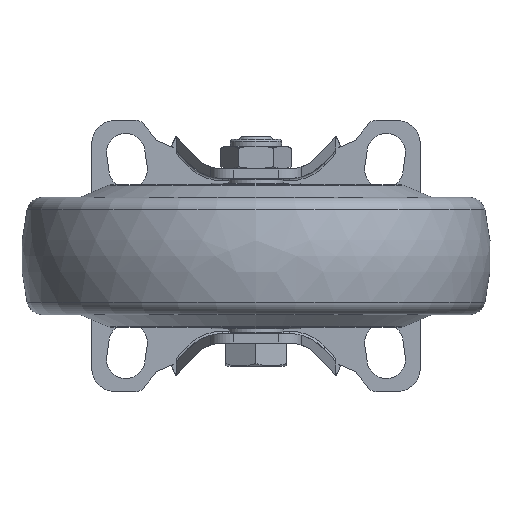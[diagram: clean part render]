
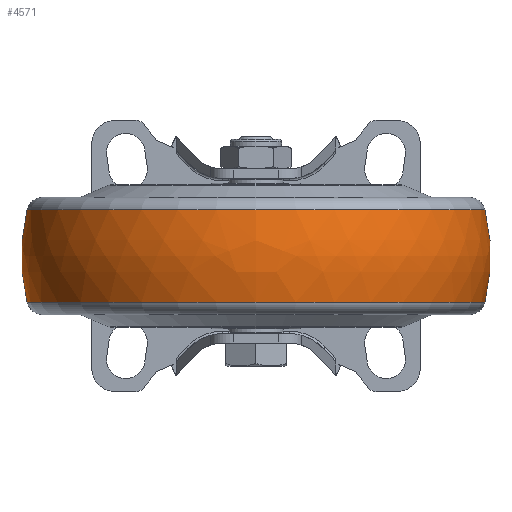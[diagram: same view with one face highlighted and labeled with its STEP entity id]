
A CAD part, front view. The second image highlights one B-rep face of the part: STEP entity #4571.
In plain terms, the highlighted free-form (B-spline) face has degree [3, 3] with [7, 4] control points.
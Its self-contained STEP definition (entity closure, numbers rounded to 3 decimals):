
#4073=CARTESIAN_POINT('',(0.,10.,0.));
#4074=DIRECTION('',(0.,0.,1.));
#4075=DIRECTION('',(0.247,0.969,0.));
#4076=AXIS2_PLACEMENT_3D('',#4073,#4074,#4075);
#4078=CARTESIAN_POINT('',(0.,-10.,0.));
#4079=DIRECTION('',(0.,0.,-1.));
#4080=DIRECTION('',(0.247,-0.969,0.));
#4081=AXIS2_PLACEMENT_3D('',#4078,#4079,#4080);
#4083=CARTESIAN_POINT('',(9.863,0.,0.));
#4084=DIRECTION('',(-1.,0.,0.));
#4085=DIRECTION('',(0.,1.,0.));
#4086=AXIS2_PLACEMENT_3D('',#4083,#4084,#4085);
#4108=CARTESIAN_POINT('',(-9.863,0.,0.));
#4109=DIRECTION('',(-1.,0.,0.));
#4110=DIRECTION('',(0.,1.,0.));
#4111=AXIS2_PLACEMENT_3D('',#4108,#4109,#4110);
#4262=CARTESIAN_POINT('',(9.863,48.765,0.));
#4264=VERTEX_POINT('',#4262);
#4265=CARTESIAN_POINT('',(-9.863,48.765,0.));
#4266=VERTEX_POINT('',#4265);
#4302=CARTESIAN_POINT('',(9.863,-48.765,
0.));
#4304=VERTEX_POINT('',#4302);
#4305=CARTESIAN_POINT('',(-9.863,-48.765,
0.));
#4306=VERTEX_POINT('',#4305);
#4533=CARTESIAN_POINT('',(-10.249,-48.569,
3.056));
#4534=CARTESIAN_POINT('',(-3.494,-50.356,
3.168));
#4535=CARTESIAN_POINT('',(3.494,-50.356,3.168));
#4536=CARTESIAN_POINT('',(10.249,-48.569,3.056));
#4537=CARTESIAN_POINT('',(-10.249,-50.449,
-26.833));
#4538=CARTESIAN_POINT('',(-3.494,-52.305,
-27.821));
#4539=CARTESIAN_POINT('',(3.494,-52.305,
-27.821));
#4540=CARTESIAN_POINT('',(10.249,-50.449,
-26.833));
#4541=CARTESIAN_POINT('',(-10.249,-29.948,
-48.665));
#4542=CARTESIAN_POINT('',(-3.494,-31.05,
-50.455));
#4543=CARTESIAN_POINT('',(3.494,-31.05,
-50.455));
#4544=CARTESIAN_POINT('',(10.249,-29.948,
-48.665));
#4545=CARTESIAN_POINT('',(-10.249,0.,
-48.665));
#4546=CARTESIAN_POINT('',(-3.494,0.,
-50.455));
#4547=CARTESIAN_POINT('',(3.494,0.,
-50.455));
#4548=CARTESIAN_POINT('',(10.249,0.,
-48.665));
#4549=CARTESIAN_POINT('',(-10.249,29.948,
-48.665));
#4550=CARTESIAN_POINT('',(-3.494,31.05,
-50.455));
#4551=CARTESIAN_POINT('',(3.494,31.05,-50.455));
#4552=CARTESIAN_POINT('',(10.249,29.948,-48.665));
#4553=CARTESIAN_POINT('',(-10.249,50.449,
-26.833));
#4554=CARTESIAN_POINT('',(-3.494,52.305,
-27.821));
#4555=CARTESIAN_POINT('',(3.494,52.305,-27.821));
#4556=CARTESIAN_POINT('',(10.249,50.449,-26.833));
#4557=CARTESIAN_POINT('',(-10.249,48.569,3.056));
#4558=CARTESIAN_POINT('',(-3.494,50.356,3.168));
#4559=CARTESIAN_POINT('',(3.494,50.356,3.168));
#4560=CARTESIAN_POINT('',(10.249,48.569,3.056));
#4561=(BOUNDED_SURFACE()B_SPLINE_SURFACE(3,3,((#4533,#4534,#4535,#4536),(#4537,
#4538,#4539,#4540),(#4541,#4542,#4543,#4544),(#4545,#4546,#4547,#4548),(#4549,
#4550,#4551,#4552),(#4553,#4554,#4555,#4556),(#4557,#4558,#4559,#4560)),
.UNSPECIFIED.,.F.,.F.,.F.)B_SPLINE_SURFACE_WITH_KNOTS((4,3,4),(4,4),(0.,1.,
2.),(0.,1.),.UNSPECIFIED.)GEOMETRIC_REPRESENTATION_ITEM()RATIONAL_B_SPLINE_SURFACE(((1.207,1.181,1.181,1.207),(
0.953,0.932,0.932,0.953),(
0.953,0.932,0.932,0.953),(
1.207,1.181,1.181,1.207),(
0.953,0.932,0.932,0.953),(
0.953,0.932,0.932,0.953),(
1.207,1.181,1.181,1.207)))REPRESENTATION_ITEM('')SURFACE());
#4563=ORIENTED_EDGE('',*,*,#4562,.T.);
#4565=ORIENTED_EDGE('',*,*,#4564,.T.);
#4567=ORIENTED_EDGE('',*,*,#4566,.F.);
#4568=ORIENTED_EDGE('',*,*,#4526,.F.);
#4569=EDGE_LOOP('',(#4563,#4565,#4567,#4568));
#4570=FACE_OUTER_BOUND('',#4569,.F.);
#4077=CIRCLE('',#4076,40.);
#4082=CIRCLE('',#4081,40.);
#4087=CIRCLE('',#4086,48.765);
#4112=CIRCLE('',#4111,48.765);
#4526=EDGE_CURVE('',#4264,#4304,#4087,.T.);
#4562=EDGE_CURVE('',#4264,#4266,#4077,.T.);
#4564=EDGE_CURVE('',#4266,#4306,#4112,.T.);
#4566=EDGE_CURVE('',#4304,#4306,#4082,.T.);
#4571=ADVANCED_FACE('',(#4570),#4561,.T.);
